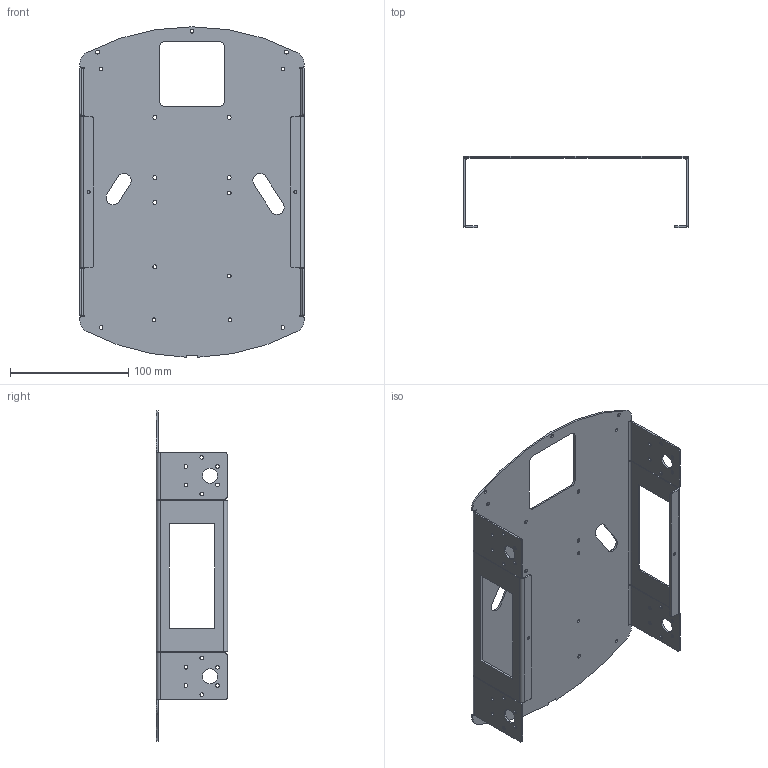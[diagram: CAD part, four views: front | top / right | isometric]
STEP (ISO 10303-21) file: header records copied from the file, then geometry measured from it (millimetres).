
FILE_DESCRIPTION (( 'STEP AP214' ), '1' );
FILE_NAME ('Base.STEP', '2024-02-28T19:46:22', ( '' ), ( '' ), 'SwSTEP 2.0', 'SolidWorks 2023', '' );
FILE_SCHEMA (( 'AUTOMOTIVE_DESIGN' ));
Length unit declared in the file: millimetre
Products named in the file (1): Base
Bounding box: 190 x 60.5 x 279.93 mm (x, y, z)
Volume: 97542.2 mm3; surface area: 134702.6 mm2
Topology: 1 solids, 1 shells, 251 faces, 683 edges, 434 vertices
Faces by surface type: cylinder 148, plane 103
Entity records: 8192 total; most frequent: DIRECTION 1483, CARTESIAN_POINT 1369, ORIENTED_EDGE 1366, EDGE_CURVE 683, AXIS2_PLACEMENT_3D 548, VERTEX_POINT 434, VECTOR 387, LINE 387
